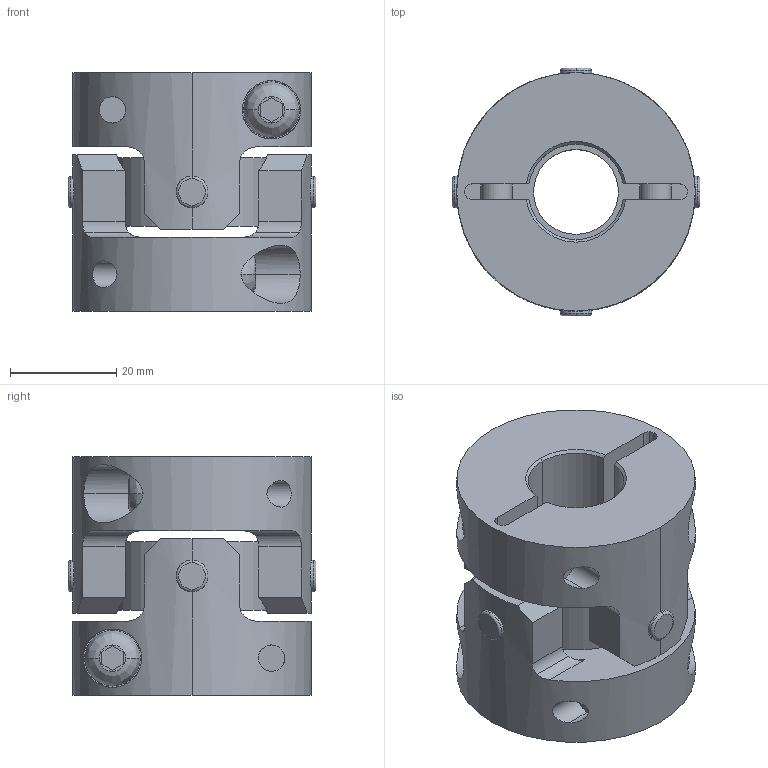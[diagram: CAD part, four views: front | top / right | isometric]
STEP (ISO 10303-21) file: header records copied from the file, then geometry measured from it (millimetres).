
FILE_DESCRIPTION((''),'2;1');
FILE_NAME('UA-45C-17×18.stp','2013-05-22T09:41:14',(''),(''),'AutoCAD STEP 2000i','AutoCAD 2000i',', , ');
FILE_SCHEMA(('CONFIG_CONTROL_DESIGN'));
Length unit declared in the file: millimetre
Products named in the file (8): UA-45C-17×17; 忣兜1; UA-4502-D17-1; BTN-M6; UA-4502-D17; UA-4502-D08-1; UA-4502-D08; UA45-SEN
Assembly tree (10 placements, depth 3):
  UA-45C-17×17
    忣兜1
    UA-4502-D17-1
      BTN-M6
    UA-4502-D17
      BTN-M6
    UA-4502-D08-1
      BTN-M6
    UA-4502-D08
      BTN-M6
    UA45-SEN
Bounding box: 46.73 x 46.73 x 45 mm (x, y, z)
Volume: 48253.1 mm3; surface area: 19373.4 mm2
Topology: 1 solids, 1 shells, 206 faces, 554 edges, 364 vertices
Faces by surface type: cylinder 96, plane 78, cone 16, bspline 8, torus 8
Entity records: 8551 total; most frequent: CARTESIAN_POINT 3195, ORIENTED_EDGE 1108, DIRECTION 1072, EDGE_CURVE 554, AXIS2_PLACEMENT_3D 413, VERTEX_POINT 364, VECTOR 246, LINE 246
